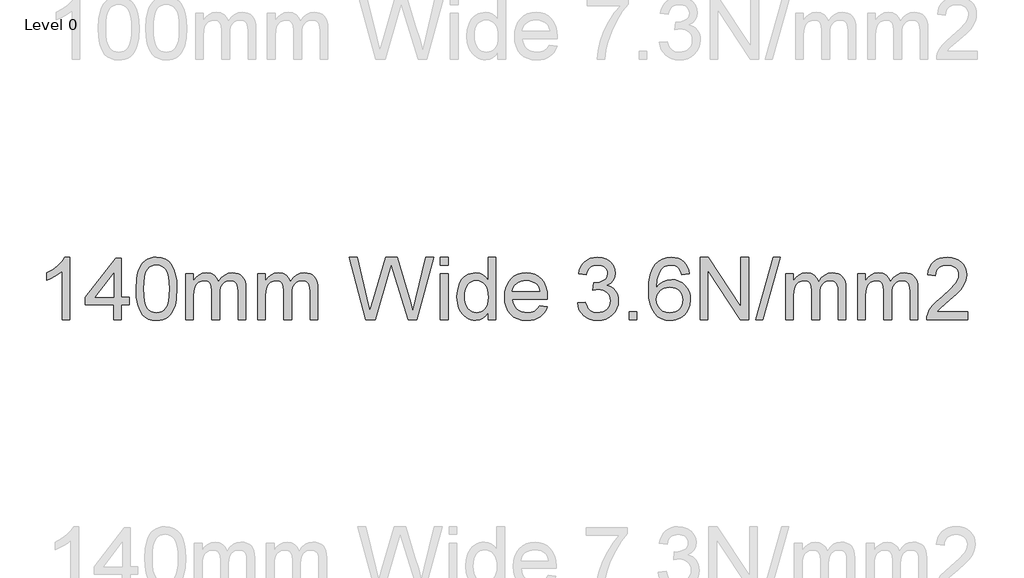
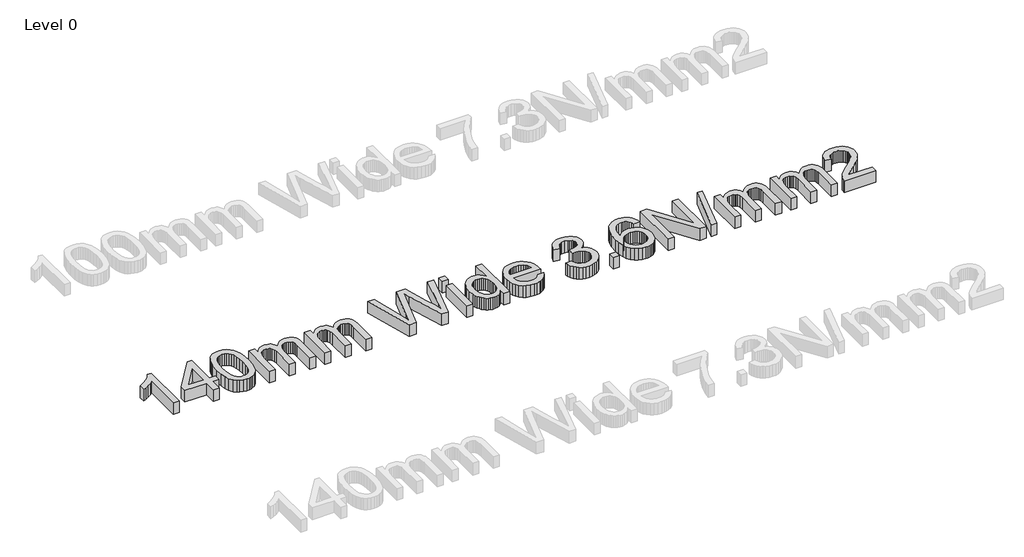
# One storey, part 2 of 4: 1 proxy.
"""IFC4 building model written with IfcOpenShell, lengths in millimetres."""

import ifcopenshell
import ifcopenshell.guid

model = None  # the IFC model being written
_history = None  # IfcOwnerHistory: only IFC2X3 demands one
_inside = {}  # id of a spatial element -> (the spatial element, [elements in it])
_under = {}  # id of a project, library or spatial element -> (it, [spatial elements below it])
_declared = {}  # id of a project -> (the project, [libraries it declares])
_typed = {}  # id of a type object -> (the type object, [elements of that type])
_made_of = {}  # id of a material, layer set ... -> (it, [elements and type objects made of it])


def new_model(schema):
    """Start an empty IFC model of exactly this schema.

    Asked for "IFC4X3", IfcOpenShell would pick the latest addendum, in which some entities
    have other attributes; the version numbers below select the first issue.
    IFC2X3 requires an IfcOwnerHistory on every rooted entity: one is made here for all.
    """
    global model, _history
    if schema == "IFC4X3":
        model = ifcopenshell.file(schema_version=(4, 3, 0, 0))
    else:
        model = ifcopenshell.file(schema=schema)
    _inside.clear()
    _under.clear()
    _declared.clear()
    _typed.clear()
    _made_of.clear()
    _history = None
    if model.schema == "IFC2X3":
        org = make("IfcOrganization", Name="unknown")
        user = make(
            "IfcPersonAndOrganization",
            ThePerson=make("IfcPerson", FamilyName="unknown"),
            TheOrganization=org,
        )
        app = make(
            "IfcApplication",
            ApplicationDeveloper=org,
            Version="unknown",
            ApplicationFullName="unknown",
            ApplicationIdentifier="unknown",
        )
        _history = make(
            "IfcOwnerHistory",
            OwningUser=user,
            OwningApplication=app,
            ChangeAction="ADDED",
            CreationDate=0,
        )
    return model


def make(cls, **values):
    """One entity of the class cls with the attributes given. An attribute that is None is left unset."""
    return model.create_entity(
        cls, **{name: value for name, value in values.items() if value is not None}
    )


def rooted(cls, **values):
    """An entity with a GlobalId (a new one), such as an element, a storey or a relation."""
    return make(cls, GlobalId=ifcopenshell.guid.new(), OwnerHistory=_history, **values)


def si_unit(unit_type, name, prefix=None):
    """IfcSIUnit, for example si_unit("LENGTHUNIT", "METRE", prefix="MILLI")."""
    return make("IfcSIUnit", UnitType=unit_type, Prefix=prefix, Name=name)


def assignment(units):
    """IfcUnitAssignment: the units of a project."""
    return None if units is None else make("IfcUnitAssignment", Units=units)


def point(xyz):
    """IfcCartesianPoint."""
    return None if xyz is None else make("IfcCartesianPoint", Coordinates=xyz)


def direction(xyz):
    """IfcDirection."""
    return None if xyz is None else make("IfcDirection", DirectionRatios=xyz)


def frame(location, z_axis=None, x_axis=None):
    """IfcAxis2Placement3D, a coordinate frame: its origin and axes. An axis left out is left unset."""
    return make(
        "IfcAxis2Placement3D",
        Location=point(location),
        Axis=direction(z_axis),
        RefDirection=direction(x_axis),
    )


def origin():
    """The frame at (0, 0, 0) with its axes left unset."""
    return frame((0.0, 0.0, 0.0))


def origin_with_axes():
    """The frame at (0, 0, 0) with the z axis (0, 0, 1) and the x axis (1, 0, 0) written out."""
    return frame((0.0, 0.0, 0.0), z_axis=(0.0, 0.0, 1.0), x_axis=(1.0, 0.0, 0.0))


def place(relative_to, where):
    """IfcLocalPlacement: puts the frame where relative to a parent placement (None: the world)."""
    return make(
        "IfcLocalPlacement", PlacementRelTo=relative_to, RelativePlacement=where
    )


def context(
    kind, dimensions, precision=None, world=None, true_north=None, identifier=None
):
    """IfcGeometricRepresentationContext, for example the 3D "Model" context."""
    return make(
        "IfcGeometricRepresentationContext",
        ContextIdentifier=identifier,
        ContextType=kind,
        CoordinateSpaceDimension=dimensions,
        Precision=precision,
        WorldCoordinateSystem=world,
        TrueNorth=true_north,
    )


def project(units=None, contexts=None):
    """IfcProject with its units and contexts."""
    return rooted(
        "IfcProject",
        Name="project",
        RepresentationContexts=contexts,
        UnitsInContext=assignment(units),
    )


def spatial(cls, under=None, at=None, **own):
    """A site, building, storey or space (cls), placed at a placement, below another one or the project."""
    s = rooted(cls, ObjectPlacement=at, **own)
    if under is not None:
        _under.setdefault(under.id(), (under, []))[1].append(s)
    return s


def polyline(points):
    """IfcPolyline through the points."""
    return make("IfcPolyline", Points=[point(p) for p in points])


def outline(outer, holes=None, kind="AREA"):
    """IfcArbitraryClosedProfileDef: a profile drawn as a closed curve; with holes, ...WithVoids."""
    if holes is None:
        return make("IfcArbitraryClosedProfileDef", ProfileType=kind, OuterCurve=outer)
    return make(
        "IfcArbitraryProfileDefWithVoids",
        ProfileType=kind,
        OuterCurve=outer,
        InnerCurves=holes,
    )


def extrude(swept, where, along, depth):
    """IfcExtrudedAreaSolid: the profile swept, set in the frame where, extruded along a direction by depth."""
    return make(
        "IfcExtrudedAreaSolid",
        SweptArea=swept,
        Position=where,
        ExtrudedDirection=direction(along),
        Depth=depth,
    )


def shape(context_of_items, identifier, shape_type, items):
    """IfcShapeRepresentation: the items that make up one representation, for example the "Body"."""
    return make(
        "IfcShapeRepresentation",
        ContextOfItems=context_of_items,
        RepresentationIdentifier=identifier,
        RepresentationType=shape_type,
        Items=items,
    )


def made_of(thing, what):
    """Note that an element or type object is made of a material, layer set ...; save() writes the relation."""
    if what is not None:
        _made_of.setdefault(what.id(), (what, []))[1].append(thing)
    return thing


def element(
    cls,
    number,
    at=None,
    inside=None,
    cuts=None,
    type_object=None,
    material=None,
    context=None,
    identifier="Body",
    shape_type=None,
    held_by="IfcProductDefinitionShape",
    body=None,
    shapes=None,
    **own,
):
    """One element of the class cls, such as IfcWall. Its Tag is "e" and its number.

    at: its placement. inside: the storey or other place that contains it. cuts: it is an
    opening in that element (IfcRelVoidsElement). A single representation is given by context,
    identifier, shape_type and body (its items); several are given by shapes. held_by: the class
    of the entity that holds the representations. save() writes the other relations.
    """
    e = rooted(cls, Tag="e%d" % number, ObjectPlacement=at, **own)
    if body is not None:
        shapes = [shape(context, identifier, shape_type, body)]
    if shapes is not None:
        e.Representation = make(held_by, Representations=shapes)
    if inside is not None:
        _inside.setdefault(inside.id(), (inside, []))[1].append(e)
    if cuts is not None:
        rooted(
            "IfcRelVoidsElement", RelatingBuildingElement=cuts, RelatedOpeningElement=e
        )
    if type_object is not None:
        _typed.setdefault(type_object.id(), (type_object, []))[1].append(e)
    return made_of(e, material)


def aggregate(whole, parts):
    """IfcRelAggregates: a whole, such as a stair, and the parts it consists of."""
    return rooted("IfcRelAggregates", RelatingObject=whole, RelatedObjects=parts)


def save(model, path):
    """Write the relations noted so far, then the file.

    IfcRelAggregates (storeys below a building ...), IfcRelContainedInSpatialStructure (elements
    in a storey), IfcRelDefinesByType, IfcRelAssociatesMaterial and IfcRelDeclares: one each for
    every whole, place, type object, material and project.
    """
    for whole, parts in _under.values():
        aggregate(whole, parts)
    for where, things in _inside.values():
        rooted(
            "IfcRelContainedInSpatialStructure",
            RelatedElements=things,
            RelatingStructure=where,
        )
    for kind, things in _typed.values():
        rooted("IfcRelDefinesByType", RelatedObjects=things, RelatingType=kind)
    for what, things in _made_of.values():
        rooted("IfcRelAssociatesMaterial", RelatedObjects=things, RelatingMaterial=what)
    for by, libraries in _declared.values():
        rooted("IfcRelDeclares", RelatingContext=by, RelatedDefinitions=libraries)
    model.write(path)


model = new_model("IFC4")

# Units and contexts
model_context = context("Model", 3, world=origin())
ifc_project = project(units=[si_unit("LENGTHUNIT", "METRE", prefix="MILLI")], contexts=[model_context])

# Site, building, storey
site = spatial("IfcSite", under=ifc_project)
building = spatial("IfcBuilding", under=site)
storey = spatial("IfcBuildingStorey", under=building, Name="Level 0", Elevation=0.0)

# Proxy
placement = place(None, origin())
element("IfcBuildingElementProxy", 1, Name="600mm Arial", ObjectType="600mm Arial", at=placement, inside=storey, context=model_context, shape_type="SweptSolid", body=[
    extrude(outline(polyline([(-38194.5201626, 14332.6403339), (-38268.3663164, 14332.6403339), (-38268.3663164, 14793.0249492), (-38299.1956434, 14768.091055), (-38338.3182395, 14743.1932185), (-38379.3879511, 14721.4324012), (-38416.0586241, 14705.9095646), (-38416.0586241, 14775.7172569), (-38358.0598261, 14807.2677377), (-38307.8134318, 14844.8037954), (-38268.2040568, 14884.7196608), (-38242.1163164, 14923.4095646), (-38194.5201626, 14923.4095646), (-38194.5201626, 14332.6403339)])), origin_with_axes(), (0.0, 0.0, 1.0), 150.0),
    extrude(outline(polyline([(-37779.1355472, 14332.6403339), (-37779.1355472, 14471.1018723), (-38046.8278549, 14471.1018723), (-38046.8278549, 14544.9480262), (-37760.6740088, 14914.1787954), (-37705.2893934, 14914.1787954), (-37705.2893934, 14544.9480262), (-37631.4432395, 14544.9480262), (-37631.4432395, 14471.1018723), (-37705.2893934, 14471.1018723), (-37705.2893934, 14332.6403339), (-37779.1355472, 14332.6403339)]), holes=[polyline([(-37779.1355472, 14544.9480262), (-37779.1355472, 14773.1211031), (-37955.9624703, 14544.9480262), (-37779.1355472, 14544.9480262)])]), origin_with_axes(), (0.0, 0.0, 1.0), 150.0),
    extrude(outline(polyline([(-37566.8278549, 14623.2653339), (-37561.4011722, 14717.8266319), (-37554.6178188, 14757.927293), (-37545.1211241, 14793.2412954), (-37532.951653, 14824.0571007), (-37518.1499703, 14850.6631704), (-37500.7160761, 14873.0595045), (-37480.6499703, 14891.2461031), (-37457.8840448, 14905.3176175), (-37432.3506914, 14915.3686992), (-37404.0499102, 14921.3993483), (-37372.9817011, 14923.4095646), (-37327.4768934, 14918.6499492), (-37286.7317011, 14904.3711031), (-37252.6571818, 14881.1319204), (-37227.1643934, 14849.4912954), (-37207.9095857, 14809.7196608), (-37192.5490088, 14762.0874492), (-37182.4889126, 14701.6006704), (-37179.1355472, 14623.2653339), (-37184.5081434, 14529.2449012), (-37191.2238886, 14489.2794565), (-37200.6259318, 14454.0105262), (-37212.7007515, 14423.1811992), (-37227.4348261, 14396.5345646), (-37244.8281554, 14374.0706223), (-37264.8807395, 14355.7893723), (-37287.6737083, 14341.6232065), (-37313.2881914, 14331.5045166), (-37341.724189, 14325.4333026), (-37372.9817011, 14323.4095646), (-37413.654778, 14326.9251896), (-37449.7124703, 14337.4720646), (-37481.154778, 14355.0501896), (-37507.9817011, 14379.6595646), (-37533.7268934, 14424.1457425), (-37552.1163164, 14479.57543), (-37563.1499703, 14545.9486271), (-37566.8278549, 14623.2653339)]), holes=[polyline([(-37492.9817011, 14623.4095646), (-37490.8182395, 14559.2133507), (-37484.3278549, 14507.2497089), (-37473.5105472, 14467.5186392), (-37458.3663164, 14440.0201416), (-37440.0490088, 14421.3107065), (-37419.7124703, 14407.9468242), (-37397.3567011, 14399.9284949), (-37372.9817011, 14397.2557185), (-37348.6067011, 14399.9375093), (-37326.2509318, 14407.9828819), (-37305.9143934, 14421.3918363), (-37287.5970857, 14440.1643723), (-37272.4528549, 14467.707942), (-37261.6355472, 14507.4299973), (-37255.1451626, 14559.3305382), (-37252.9817011, 14623.4095646), (-37255.0730472, 14685.9065598), (-37261.3470857, 14736.9552377), (-37271.8038164, 14776.5555983), (-37286.4432395, 14804.7076416), (-37304.4540568, 14824.3320406), (-37325.0249703, 14838.3494685), (-37348.1559799, 14846.7599252), (-37373.8470857, 14849.5634108), (-37398.0958838, 14847.0934589), (-37420.0730472, 14839.6836031), (-37439.7785761, 14827.3338435), (-37457.2124703, 14810.04418), (-37472.8615088, 14779.3951416), (-37484.0393934, 14738.0730262), (-37490.7461241, 14686.0778339), (-37492.9817011, 14623.4095646)])]), origin_with_axes(), (0.0, 0.0, 1.0), 150.0),
    extrude(outline(polyline([(-37096.0586241, 14332.6403339), (-37096.0586241, 14766.4864877), (-37022.2124703, 14766.4864877), (-37022.2124703, 14695.0922569), (-37000.0009318, 14727.8867281), (-36971.4432395, 14753.5778339), (-36937.5129511, 14770.1824012), (-36899.1836241, 14775.7172569), (-36858.1139126, 14770.0742281), (-36840.6349463, 14763.020442), (-36825.1932395, 14753.1451416), (-36800.6018934, 14726.0477858), (-36784.5201626, 14689.8999492), (-36757.6030953, 14727.4450214), (-36726.8999703, 14754.26293), (-36692.4107876, 14770.3536752), (-36654.1355472, 14775.7172569), (-36624.5727467, 14773.4861872), (-36598.6247299, 14766.7929781), (-36576.2914967, 14755.6376295), (-36557.5730472, 14740.0201416), (-36542.7758717, 14719.7602257), (-36532.2064607, 14694.6775935), (-36525.864814, 14664.7722449), (-36523.7509318, 14630.04418), (-36523.7509318, 14332.6403339), (-36597.5970857, 14332.6403339), (-36597.5970857, 14598.3134108), (-36599.3098261, 14635.1463435), (-36604.4480472, 14659.9720646), (-36614.0754511, 14676.9732666), (-36629.2557395, 14690.3326416), (-36648.7809799, 14698.9864877), (-36671.4432395, 14701.8711031), (-36692.3702227, 14700.0231464), (-36711.4492491, 14694.4792762), (-36728.6803188, 14685.2394925), (-36744.0634318, 14672.3037954), (-36756.7151746, 14655.2935791), (-36765.7521338, 14633.8302377), (-36771.1743092, 14607.9137714), (-36772.9817011, 14577.54418), (-36772.9817011, 14332.6403339), (-36846.8278549, 14332.6403339), (-36846.8278549, 14606.5345646), (-36851.1006914, 14648.2893723), (-36863.9192011, 14678.0730262), (-36873.8305592, 14688.4846848), (-36886.4732876, 14695.9215839), (-36901.8473862, 14700.3837233), (-36919.9528549, 14701.8711031), (-36948.4023741, 14697.9047569), (-36974.6163164, 14686.0057185), (-36996.2509318, 14666.4624492), (-37010.9624703, 14639.5634108), (-37019.3999703, 14602.2436992), (-37022.2124703, 14551.4384108), (-37022.2124703, 14332.6403339), (-37096.0586241, 14332.6403339)])), origin_with_axes(), (0.0, 0.0, 1.0), 150.0),
    extrude(outline(polyline([(-36412.9817011, 14332.6403339), (-36412.9817011, 14766.4864877), (-36339.1355472, 14766.4864877), (-36339.1355472, 14695.0922569), (-36316.9240088, 14727.8867281), (-36288.3663164, 14753.5778339), (-36254.436028, 14770.1824012), (-36216.1067011, 14775.7172569), (-36175.0369895, 14770.0742281), (-36157.5580232, 14763.020442), (-36142.1163164, 14753.1451416), (-36117.5249703, 14726.0477858), (-36101.4432395, 14689.8999492), (-36074.5261722, 14727.4450214), (-36043.8230472, 14754.26293), (-36009.3338645, 14770.3536752), (-35971.0586241, 14775.7172569), (-35941.4958237, 14773.4861872), (-35915.5478068, 14766.7929781), (-35893.2145737, 14755.6376295), (-35874.4961241, 14740.0201416), (-35859.6989487, 14719.7602257), (-35849.1295376, 14694.6775935), (-35842.787891, 14664.7722449), (-35840.6740088, 14630.04418), (-35840.6740088, 14332.6403339), (-35914.5201626, 14332.6403339), (-35914.5201626, 14598.3134108), (-35916.232903, 14635.1463435), (-35921.3711241, 14659.9720646), (-35930.998528, 14676.9732666), (-35946.1788164, 14690.3326416), (-35965.7040568, 14698.9864877), (-35988.3663164, 14701.8711031), (-36009.2932996, 14700.0231464), (-36028.3723261, 14694.4792762), (-36045.6033958, 14685.2394925), (-36060.9865088, 14672.3037954), (-36073.6382515, 14655.2935791), (-36082.6752107, 14633.8302377), (-36088.0973862, 14607.9137714), (-36089.904778, 14577.54418), (-36089.904778, 14332.6403339), (-36163.7509318, 14332.6403339), (-36163.7509318, 14606.5345646), (-36168.0237684, 14648.2893723), (-36180.842278, 14678.0730262), (-36190.7536362, 14688.4846848), (-36203.3963645, 14695.9215839), (-36218.7704631, 14700.3837233), (-36236.8759318, 14701.8711031), (-36265.3254511, 14697.9047569), (-36291.5393934, 14686.0057185), (-36313.1740088, 14666.4624492), (-36327.8855472, 14639.5634108), (-36336.3230472, 14602.2436992), (-36339.1355472, 14551.4384108), (-36339.1355472, 14332.6403339), (-36412.9817011, 14332.6403339)])), origin_with_axes(), (0.0, 0.0, 1.0), 150.0),
    extrude(outline(polyline([(-35384.1836241, 14332.6403339), (-35545.2893934, 14923.4095646), (-35469.1355472, 14923.4095646), (-35375.6740088, 14535.1403339), (-35346.8278549, 14415.2845646), (-35315.9624703, 14521.29418), (-35198.8470857, 14923.4095646), (-35089.0874703, 14923.4095646), (-35003.9913164, 14631.91918), (-34967.5369895, 14523.7461031), (-34940.6740088, 14415.2845646), (-34912.6932395, 14531.6787954), (-34818.3663164, 14923.4095646), (-34742.2124703, 14923.4095646), (-34903.4624703, 14332.6403339), (-34982.3567011, 14332.6403339), (-35123.9913164, 14788.4095646), (-35143.7509318, 14852.0153339), (-35165.9624703, 14775.4287954), (-35295.0490088, 14332.6403339), (-35384.1836241, 14332.6403339)])), origin_with_axes(), (0.0, 0.0, 1.0), 150.0),
    extrude(outline(polyline([(-34677.5970857, 14332.6403339), (-34677.5970857, 14766.4864877), (-34603.7509318, 14766.4864877), (-34603.7509318, 14332.6403339), (-34677.5970857, 14332.6403339)])), origin_with_axes(), (0.0, 0.0, 1.0), 150.0),
    extrude(outline(polyline([(-34677.5970857, 14849.5634108), (-34677.5970857, 14923.4095646), (-34603.7509318, 14923.4095646), (-34603.7509318, 14849.5634108), (-34677.5970857, 14849.5634108)])), origin_with_axes(), (0.0, 0.0, 1.0), 150.0),
    extrude(outline(polyline([(-34225.2893934, 14332.6403339), (-34225.2893934, 14402.3037954), (-34247.3837443, 14367.7875694), (-34274.1475664, 14343.1331223), (-34305.5808597, 14328.3404541), (-34341.6836241, 14323.4095646), (-34366.0586241, 14325.1944204), (-34389.4240088, 14330.5489877), (-34411.779778, 14339.4732666), (-34433.1259318, 14351.9672569), (-34452.795403, 14367.6568603), (-34470.1211241, 14386.1679781), (-34485.1030953, 14407.5006103), (-34497.7413164, 14431.6547569), (-34507.7743693, 14458.1706824), (-34514.9408357, 14486.5886512), (-34520.6740088, 14549.1307185), (-34515.3915568, 14610.8975454), (-34499.5442011, 14666.6787954), (-34487.6631914, 14691.5315598), (-34473.1499703, 14713.3013916), (-34456.0045376, 14731.9882906), (-34436.2268934, 14747.5922569), (-34414.5156554, 14759.8969444), (-34391.5694414, 14768.6860069), (-34367.3882515, 14773.9594444), (-34341.9720857, 14775.7172569), (-34305.842278, 14770.6872089), (-34273.8951626, 14755.5970646), (-34246.8158357, 14732.466055), (-34225.2893934, 14703.3134108), (-34225.2893934, 14923.4095646), (-34151.4432395, 14923.4095646), (-34151.4432395, 14332.6403339), (-34225.2893934, 14332.6403339)]), holes=[polyline([(-34446.8278549, 14549.41918), (-34444.7455232, 14513.6093843), (-34438.498528, 14482.622305), (-34428.0868693, 14456.457942), (-34413.5105472, 14435.1162954), (-34396.1036963, 14418.552293), (-34377.2004511, 14406.7208627), (-34356.8008116, 14399.6220045), (-34334.904778, 14397.2557185), (-34312.9050785, 14399.5138315), (-34292.6271338, 14406.2881704), (-34274.0709438, 14417.5787353), (-34257.2365088, 14433.3855262), (-34243.2596458, 14453.8347449), (-34233.2761722, 14479.0525935), (-34227.2860881, 14509.0390718), (-34225.2893934, 14543.79418), (-34227.3221458, 14581.8981464), (-34233.420403, 14614.57543), (-34243.584165, 14641.826031), (-34257.8134318, 14663.6499492), (-34275.0174583, 14680.3717041), (-34294.1054991, 14692.3158146), (-34315.0775544, 14699.482281), (-34337.9336241, 14701.8711031), (-34360.2623501, 14699.5769324), (-34380.6619895, 14692.6944204), (-34399.1325424, 14681.223567), (-34415.6740088, 14665.1643723), (-34429.3038164, 14644.1652738), (-34439.0393934, 14617.8747089), (-34444.8807395, 14586.2926776), (-34446.8278549, 14549.41918)])]), origin_with_axes(), (0.0, 0.0, 1.0), 150.0),
    extrude(outline(polyline([(-33736.9240088, 14461.8711031), (-33664.5201626, 14452.6403339), (-33675.6214246, 14423.6409348), (-33690.607903, 14398.0850454), (-33709.4795977, 14375.9726656), (-33732.2365088, 14357.3037954), (-33758.6442612, 14342.4750694), (-33788.4684799, 14331.8831223), (-33821.709165, 14325.5279541), (-33858.3663164, 14323.4095646), (-33904.1866289, 14327.0649132), (-33945.0129511, 14338.0309589), (-33980.8452828, 14356.3077017), (-34011.6836241, 14381.8951416), (-34036.482302, 14414.0811392), (-34054.1956434, 14452.153555), (-34064.8236482, 14496.1123892), (-34068.3663164, 14545.9576416), (-34064.7875905, 14597.4930983), (-34054.0514126, 14642.9167762), (-34036.1577828, 14682.2286752), (-34011.1067011, 14715.4287954), (-33980.3494895, 14741.8049973), (-33945.3374703, 14760.6451416), (-33906.0706434, 14771.9492281), (-33862.5490088, 14775.7172569), (-33820.4291169, 14771.9582425), (-33782.3386722, 14760.6811992), (-33748.2776746, 14741.8861271), (-33718.2461241, 14715.5730262), (-33693.7314006, 14682.4450214), (-33676.2208838, 14643.2052377), (-33665.7145737, 14597.8536752), (-33662.2124703, 14546.3903339), (-33662.6451626, 14526.4864877), (-33994.5201626, 14526.4864877), (-33990.2428188, 14497.0183387), (-33981.7377107, 14471.2100454), (-33969.0048381, 14449.0616079), (-33952.0442011, 14430.5730262), (-33931.7932996, 14415.9967041), (-33909.1896338, 14405.5850454), (-33884.2332035, 14399.3380502), (-33856.9240088, 14397.2557185), (-33817.6211241, 14401.1138916), (-33784.5201626, 14412.6884108), (-33757.6211241, 14432.70043), (-33736.9240088, 14461.8711031)]), holes=[polyline([(-33994.5201626, 14600.3326416), (-33736.0586241, 14600.3326416), (-33746.0466049, 14639.3470646), (-33754.6373501, 14654.6896127), (-33765.6259318, 14667.2557185), (-33785.764153, 14682.3999492), (-33808.6788164, 14693.2172569), (-33834.3699222, 14699.7076416), (-33862.8374703, 14701.8711031), (-33888.803516, 14700.1448411), (-33912.6151145, 14694.966055), (-33934.272266, 14686.3347449), (-33953.7749703, 14674.2509108), (-33970.1406554, 14659.2734468), (-33982.3867491, 14641.9612473), (-33990.5132515, 14622.3143122), (-33994.5201626, 14600.3326416)])]), origin_with_axes(), (0.0, 0.0, 1.0), 150.0),
    extrude(outline(polyline([(-33376.0586241, 14489.5634108), (-33302.2124703, 14498.79418), (-33285.6800184, 14452.38793), (-33274.5336842, 14434.8368483), (-33261.467278, 14421.0537954), (-33246.1833237, 14410.6421367), (-33228.3843453, 14403.2052377), (-33208.0703429, 14398.7430983), (-33185.2413164, 14397.2557185), (-33158.4865088, 14399.3019925), (-33134.6163164, 14405.4408146), (-33113.6307395, 14415.6721848), (-33095.529778, 14429.9961031), (-33080.9534559, 14447.3398531), (-33070.5417972, 14466.6307185), (-33064.294802, 14487.8686992), (-33062.2124703, 14511.0537954), (-33064.2767732, 14533.1346247), (-33070.4696818, 14553.2232666), (-33080.7911963, 14571.3197209), (-33095.2413164, 14587.4239877), (-33112.873528, 14600.6436392), (-33132.7413164, 14610.0862473), (-33154.8446818, 14615.7518122), (-33179.1836241, 14617.6403339), (-33202.5129511, 14615.6211031), (-33230.9624703, 14609.5634108), (-33222.7413164, 14683.4095646), (-33210.9143934, 14682.54418), (-33166.6716049, 14687.8446608), (-33127.1163164, 14703.7461031), (-33110.8362684, 14715.7713435), (-33099.2076626, 14730.6451416), (-33092.2304991, 14748.3674973), (-33089.904778, 14768.9384108), (-33091.5904751, 14785.6376295), (-33096.6475664, 14800.8314396), (-33105.076052, 14814.5198411), (-33116.8759318, 14826.7028339), (-33131.3350664, 14836.7043363), (-33147.7413164, 14843.8482666), (-33186.3951626, 14849.5634108), (-33225.1211241, 14843.79418), (-33241.8338645, 14836.5826416), (-33256.779778, 14826.4864877), (-33269.5892732, 14813.5057185), (-33279.8927588, 14797.6403339), (-33287.6902347, 14778.8903339), (-33292.9817011, 14757.2557185), (-33366.8278549, 14766.4864877), (-33358.0748501, 14801.7418964), (-33345.0850664, 14832.7965839), (-33327.8585039, 14859.6505502), (-33306.3951626, 14882.3037954), (-33281.3711241, 14900.2875694), (-33253.4624703, 14913.1331223), (-33222.6692011, 14920.8404541), (-33188.9913164, 14923.4095646), (-33142.5670376, 14918.3434589), (-33099.9288164, 14903.1451416), (-33063.9792972, 14879.1667762), (-33037.6211241, 14847.7605262), (-33021.4492491, 14811.5766319), (-33016.0586241, 14773.2653339), (-33021.1788164, 14737.5682185), (-33036.5393934, 14705.1884108), (-33061.9240088, 14677.6042762), (-33097.1163164, 14656.29418), (-33072.5069414, 14648.5958627), (-33050.8903549, 14637.6162954), (-33032.2665568, 14623.3554781), (-33016.6355472, 14605.8134108), (-33004.2677588, 14585.4227858), (-32995.4336241, 14562.6162954), (-32990.1331434, 14537.3939396), (-32988.3663164, 14509.7557185), (-32991.8999703, 14472.2917762), (-33002.5009318, 14437.7845646), (-33020.1692011, 14406.2340839), (-33044.904778, 14377.6403339), (-33075.0399943, 14353.9143723), (-33108.9071818, 14336.9672569), (-33146.5063405, 14326.7989877), (-33187.8374703, 14323.4095646), (-33225.1932395, 14326.3031944), (-33259.2317011, 14334.9840839), (-33289.9528549, 14349.4522329), (-33317.3567011, 14369.7076416), (-33340.3344655, 14394.560406), (-33357.7773741, 14422.8206223), (-33369.685427, 14454.4882906), (-33376.0586241, 14489.5634108)])), origin_with_axes(), (0.0, 0.0, 1.0), 150.0),
    extrude(outline(polyline([(-32886.8278549, 14332.6403339), (-32886.8278549, 14406.4864877), (-32812.9817011, 14406.4864877), (-32812.9817011, 14332.6403339), (-32886.8278549, 14332.6403339)])), origin_with_axes(), (0.0, 0.0, 1.0), 150.0),
    extrude(outline(polyline([(-32314.5201626, 14766.4864877), (-32388.3663164, 14757.2557185), (-32400.2653549, 14793.8542762), (-32416.3470857, 14818.8422569), (-32432.2214847, 14832.2827617), (-32449.8446818, 14841.8831223), (-32469.216677, 14847.6433387), (-32490.3374703, 14849.5634108), (-32524.6643934, 14845.0922569), (-32556.9720857, 14831.6787954), (-32584.7184799, 14803.4275935), (-32607.3807395, 14764.5393723), (-32616.2374102, 14739.7361872), (-32622.6872299, 14709.5333627), (-32628.3663164, 14632.9287954), (-32598.7449222, 14667.4900935), (-32563.2461241, 14691.8470646), (-32523.8530953, 14706.2881704), (-32482.5490088, 14711.1018723), (-32447.0682395, 14707.8116079), (-32414.3278549, 14697.9408146), (-32384.3278549, 14681.4894925), (-32357.0682395, 14658.4576416), (-32334.4149943, 14630.2154541), (-32318.2341049, 14598.1331223), (-32308.5255713, 14562.2106464), (-32305.2893934, 14522.4480262), (-32311.3831434, 14469.5694204), (-32319.0003309, 14444.5769324), (-32329.6643934, 14420.5489877), (-32342.9967251, 14398.3825214), (-32358.6187203, 14378.9744685), (-32376.5303789, 14362.3248291), (-32396.7317011, 14348.4336031), (-32418.7899943, 14337.4855863), (-32442.2725664, 14329.6655742), (-32467.1794174, 14324.973567), (-32493.5105472, 14323.4095646), (-32537.5324823, 14327.5561992), (-32577.2905953, 14339.9961031), (-32612.7848862, 14360.7292762), (-32644.0153549, 14389.7557185), (-32669.4765929, 14428.3013916), (-32687.6631914, 14477.5922569), (-32698.5751506, 14537.6283146), (-32702.2124703, 14608.4095646), (-32698.1740088, 14687.763531), (-32686.0586241, 14755.4888916), (-32665.8663164, 14811.5856464), (-32652.7413164, 14835.2732966), (-32637.5970857, 14856.0537954), (-32606.9570616, 14885.5219444), (-32571.4312203, 14906.5706223), (-32531.0195616, 14919.1998291), (-32485.7220857, 14923.4095646), (-32451.7106674, 14920.8043964), (-32420.9264126, 14912.9888916), (-32393.3693213, 14899.9630502), (-32369.0393934, 14881.7268723), (-32348.5946818, 14858.8933387), (-32332.6932395, 14832.07543), (-32321.3350664, 14801.2731464), (-32314.5201626, 14766.4864877)]), holes=[polyline([(-32628.3663164, 14523.6018723), (-32624.0934799, 14490.8795166), (-32611.2749703, 14459.6355262), (-32591.3711241, 14432.7725454), (-32565.842278, 14413.1932185), (-32535.0309799, 14401.2400935), (-32499.279778, 14397.2557185), (-32473.6112083, 14399.3200214), (-32450.5478068, 14405.51293), (-32430.0895737, 14415.8344444), (-32412.2365088, 14430.2845646), (-32397.7548381, 14448.2773531), (-32387.4107876, 14469.2268723), (-32381.2043573, 14493.1331223), (-32379.1355472, 14519.9961031), (-32381.177314, 14545.8089036), (-32387.3026145, 14568.7280742), (-32397.5114487, 14588.7536151), (-32411.8038164, 14605.8855262), (-32429.7109679, 14619.6099853), (-32450.764153, 14629.4131704), (-32474.9633717, 14635.2950815), (-32502.3086241, 14637.2557185), (-32527.6346458, 14635.2950815), (-32550.9684799, 14629.4131704), (-32572.3101265, 14619.6099853), (-32591.6595857, 14605.8855262), (-32607.7187804, 14588.9789757), (-32619.1896338, 14569.6295166), (-32626.0721458, 14547.8371488), (-32628.3663164, 14523.6018723)])]), origin_with_axes(), (0.0, 0.0, 1.0), 150.0),
    extrude(outline(polyline([(-32212.9817011, 14332.6403339), (-32212.9817011, 14923.4095646), (-32133.9432395, 14923.4095646), (-31825.2893934, 14455.3807185), (-31825.2893934, 14923.4095646), (-31751.4432395, 14923.4095646), (-31751.4432395, 14332.6403339), (-31830.4817011, 14332.6403339), (-32139.1355472, 14800.8134108), (-32139.1355472, 14332.6403339), (-32212.9817011, 14332.6403339)])), origin_with_axes(), (0.0, 0.0, 1.0), 150.0),
    extrude(outline(polyline([(-31686.8278549, 14332.6403339), (-31520.6740088, 14923.4095646), (-31454.0393934, 14923.4095646), (-31620.1932395, 14332.6403339), (-31686.8278549, 14332.6403339)])), origin_with_axes(), (0.0, 0.0, 1.0), 150.0),
    extrude(outline(polyline([(-31400.6740088, 14332.6403339), (-31400.6740088, 14766.4864877), (-31326.8278549, 14766.4864877), (-31326.8278549, 14695.0922569), (-31304.6163164, 14727.8867281), (-31276.0586241, 14753.5778339), (-31242.1283357, 14770.1824012), (-31203.7990088, 14775.7172569), (-31162.7292972, 14770.0742281), (-31145.2503309, 14763.020442), (-31129.8086241, 14753.1451416), (-31105.217278, 14726.0477858), (-31089.1355472, 14689.8999492), (-31062.2184799, 14727.4450214), (-31031.5153549, 14754.26293), (-30997.0261722, 14770.3536752), (-30958.7509318, 14775.7172569), (-30929.1881313, 14773.4861872), (-30903.2401145, 14766.7929781), (-30880.9068813, 14755.6376295), (-30862.1884318, 14740.0201416), (-30847.3912563, 14719.7602257), (-30836.8218453, 14694.6775935), (-30830.4801987, 14664.7722449), (-30828.3663164, 14630.04418), (-30828.3663164, 14332.6403339), (-30902.2124703, 14332.6403339), (-30902.2124703, 14598.3134108), (-30903.9252107, 14635.1463435), (-30909.0634318, 14659.9720646), (-30918.6908357, 14676.9732666), (-30933.8711241, 14690.3326416), (-30953.3963645, 14698.9864877), (-30976.0586241, 14701.8711031), (-30996.9856073, 14700.0231464), (-31016.0646338, 14694.4792762), (-31033.2957035, 14685.2394925), (-31048.6788164, 14672.3037954), (-31061.3305592, 14655.2935791), (-31070.3675184, 14633.8302377), (-31075.7896938, 14607.9137714), (-31077.5970857, 14577.54418), (-31077.5970857, 14332.6403339), (-31151.4432395, 14332.6403339), (-31151.4432395, 14606.5345646), (-31155.7160761, 14648.2893723), (-31168.5345857, 14678.0730262), (-31178.4459438, 14688.4846848), (-31191.0886722, 14695.9215839), (-31206.4627708, 14700.3837233), (-31224.5682395, 14701.8711031), (-31253.0177588, 14697.9047569), (-31279.2317011, 14686.0057185), (-31300.8663164, 14666.4624492), (-31315.5778549, 14639.5634108), (-31324.0153549, 14602.2436992), (-31326.8278549, 14551.4384108), (-31326.8278549, 14332.6403339), (-31400.6740088, 14332.6403339)])), origin_with_axes(), (0.0, 0.0, 1.0), 150.0),
    extrude(outline(polyline([(-30717.5970857, 14332.6403339), (-30717.5970857, 14766.4864877), (-30643.7509318, 14766.4864877), (-30643.7509318, 14695.0922569), (-30621.5393934, 14727.8867281), (-30592.9817011, 14753.5778339), (-30559.0514126, 14770.1824012), (-30520.7220857, 14775.7172569), (-30479.6523741, 14770.0742281), (-30462.1734078, 14763.020442), (-30446.7317011, 14753.1451416), (-30422.1403549, 14726.0477858), (-30406.0586241, 14689.8999492), (-30379.1415568, 14727.4450214), (-30348.4384318, 14754.26293), (-30313.9492491, 14770.3536752), (-30275.6740088, 14775.7172569), (-30246.1112083, 14773.4861872), (-30220.1631914, 14766.7929781), (-30197.8299583, 14755.6376295), (-30179.1115088, 14740.0201416), (-30164.3143333, 14719.7602257), (-30153.7449222, 14694.6775935), (-30147.4032756, 14664.7722449), (-30145.2893934, 14630.04418), (-30145.2893934, 14332.6403339), (-30219.1355472, 14332.6403339), (-30219.1355472, 14598.3134108), (-30220.8482876, 14635.1463435), (-30225.9865088, 14659.9720646), (-30235.6139126, 14676.9732666), (-30250.7942011, 14690.3326416), (-30270.3194414, 14698.9864877), (-30292.9817011, 14701.8711031), (-30313.9086842, 14700.0231464), (-30332.9877107, 14694.4792762), (-30350.2187804, 14685.2394925), (-30365.6018934, 14672.3037954), (-30378.2536362, 14655.2935791), (-30387.2905953, 14633.8302377), (-30392.7127708, 14607.9137714), (-30394.5201626, 14577.54418), (-30394.5201626, 14332.6403339), (-30468.3663164, 14332.6403339), (-30468.3663164, 14606.5345646), (-30472.639153, 14648.2893723), (-30485.4576626, 14678.0730262), (-30495.3690208, 14688.4846848), (-30508.0117491, 14695.9215839), (-30523.3858477, 14700.3837233), (-30541.4913164, 14701.8711031), (-30569.9408357, 14697.9047569), (-30596.154778, 14686.0057185), (-30617.7893934, 14666.4624492), (-30632.5009318, 14639.5634108), (-30640.9384318, 14602.2436992), (-30643.7509318, 14551.4384108), (-30643.7509318, 14332.6403339), (-30717.5970857, 14332.6403339)])), origin_with_axes(), (0.0, 0.0, 1.0), 150.0),
    extrude(outline(polyline([(-29674.5201626, 14406.4864877), (-29674.5201626, 14332.6403339), (-30062.2124703, 14332.6403339), (-30060.5898741, 14358.63793), (-30054.279778, 14383.5537954), (-30036.0706434, 14423.3434589), (-30009.4240088, 14461.9432185), (-29970.8783357, 14502.3458627), (-29916.9720857, 14547.54418), (-29837.2845857, 14618.32543), (-29789.4720857, 14670.5730262), (-29775.5267732, 14691.91918), (-29765.5658357, 14712.9768723), (-29759.5892732, 14733.7461031), (-29757.5970857, 14754.2268723), (-29759.4765929, 14773.4952017), (-29765.1151145, 14791.2040358), (-29774.5126506, 14807.3533747), (-29787.6692011, 14821.9432185), (-29803.8545977, 14834.0270526), (-29822.3386722, 14842.6583627), (-29843.1214246, 14847.8371488), (-29866.2028549, 14849.5634108), (-29890.5192612, 14847.8777137), (-29912.2665568, 14842.8206223), (-29931.4447419, 14834.3921367), (-29948.0538164, 14822.5922569), (-29961.489814, 14807.8176175), (-29971.1487684, 14790.4648531), (-29977.0306794, 14770.5339637), (-29979.1355472, 14748.0249492), (-30052.9817011, 14757.2557185), (-30046.63104, 14795.3777137), (-30035.0790568, 14828.6860069), (-30018.3257515, 14857.1805983), (-29996.3711241, 14880.8614877), (-29969.7199823, 14899.4762714), (-29938.8771338, 14912.7725454), (-29903.8425785, 14920.7503098), (-29864.6163164, 14923.4095646), (-29825.0384919, 14920.4528339), (-29789.8146338, 14911.5826416), (-29758.9447419, 14896.7989877), (-29732.4288164, 14876.1018723), (-29711.1322419, 14851.0237473), (-29695.920403, 14823.0970646), (-29686.7932996, 14792.3218242), (-29683.7509318, 14758.6980262), (-29687.0321818, 14723.3795166), (-29696.8759318, 14688.6739877), (-29714.3458838, 14653.3735069), (-29740.5057395, 14616.2701416), (-29782.2064607, 14571.9732666), (-29846.2990088, 14515.0922569), (-29931.2509318, 14444.0586031), (-29964.5682395, 14406.4864877), (-29674.5201626, 14406.4864877)])), origin_with_axes(), (0.0, 0.0, 1.0), 150.0),
])

save(model, "model.ifc")
